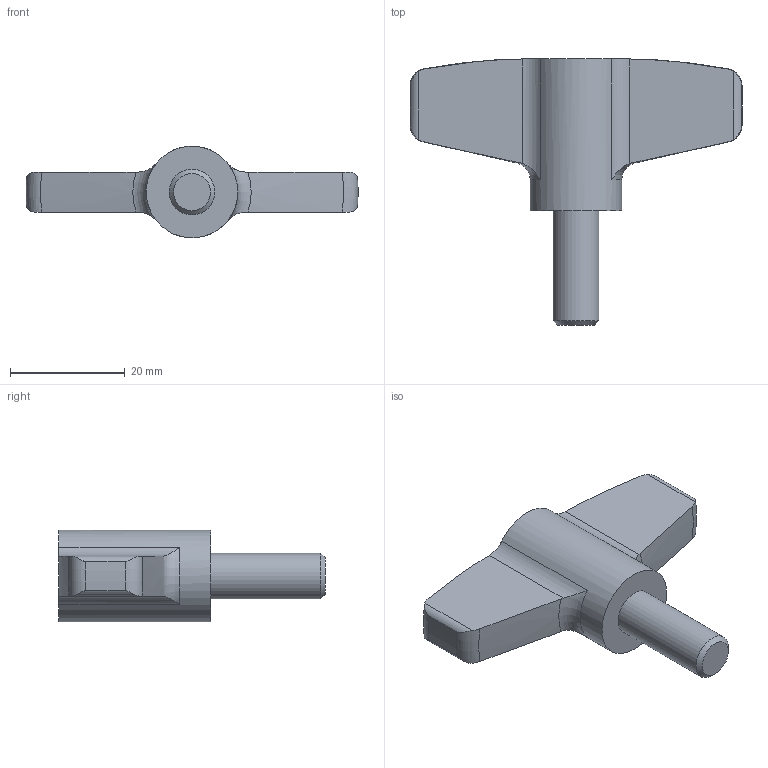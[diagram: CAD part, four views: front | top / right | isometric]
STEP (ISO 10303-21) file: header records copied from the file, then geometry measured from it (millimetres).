
FILE_DESCRIPTION( ( 'STEP AP203' ), '1' );
FILE_NAME( 'C:/Temp/Ganter_Step_05_03_2020/data/2_2/gn_835/Stainless Steel-Wing screw GN 835-58-M8-20-MT.stp', '2020-03-05T12:19:31', ( 'License CC BY-ND 4.0' ), ( 'CADENAS' ), ' ', 'PARTsolutions', ' ' );
FILE_SCHEMA( ( 'CONFIG_CONTROL_DESIGN' ) );
Length unit declared in the file: millimetre
Products named in the file (1): _Stainless Steel-Wing screw GN 835-58-M8-20-MT
Bounding box: 57.97 x 46.5 x 15.98 mm (x, y, z)
Volume: 10985.1 mm3; surface area: 3993 mm2
Topology: 1 solids, 1 shells, 30 faces, 76 edges, 49 vertices
Faces by surface type: cylinder 12, plane 7, torus 6, cone 3, bspline 2
Full cylindrical faces by diameter (mm): 8 x1, 16 x1
Entity records: 1166 total; most frequent: CARTESIAN_POINT 477, ORIENTED_EDGE 144, DIRECTION 114, EDGE_CURVE 72, AXIS2_PLACEMENT_3D 49, VERTEX_POINT 48, B_SPLINE_CURVE_WITH_KNOTS 36, EDGE_LOOP 34
